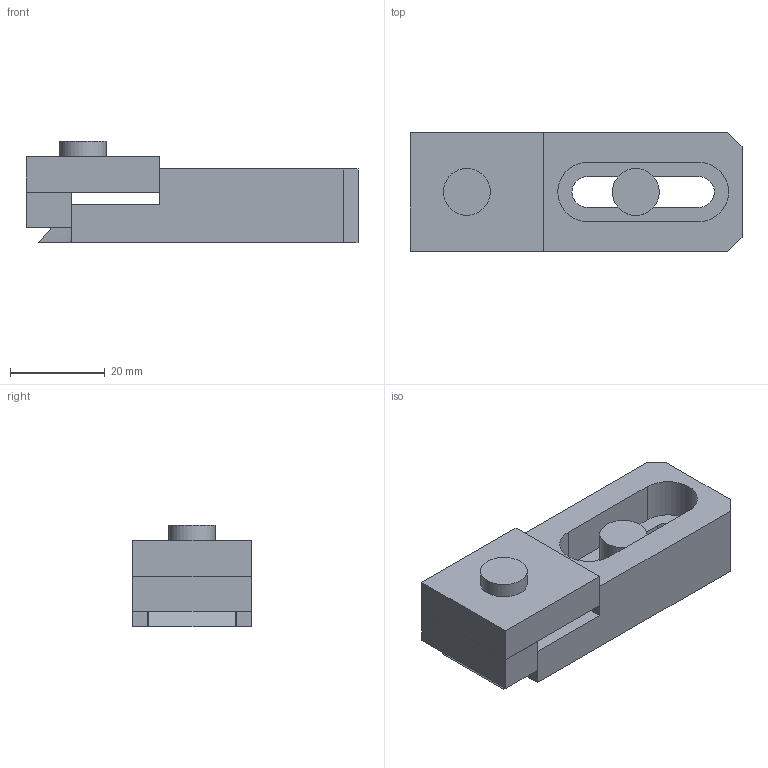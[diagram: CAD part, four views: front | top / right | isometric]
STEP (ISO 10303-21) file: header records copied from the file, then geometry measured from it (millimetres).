
FILE_DESCRIPTION(/* description */ (''),/* implementation_level */ '2;1');
FILE_NAME(/* name */ 'crush_it_clamp v2.step',/* time_stamp */ '2025-09-28T15:56:05-04:00',/* author */ (''),/* organization */ (''),/* preprocessor_version */ 'ST-DEVELOPER v20.1',/* originating_system */ 'Autodesk Translation Framework v14.10.0.0',/* authorisation */ '');
FILE_SCHEMA (('AUTOMOTIVE_DESIGN { 1 0 10303 214 3 1 1 }'));
Length unit declared in the file: millimetre
Products named in the file (1): crush_it_clamp
Bounding box: 70 x 25 x 21.3 mm (x, y, z)
Volume: 22291.9 mm3; surface area: 10016.9 mm2
Topology: 5 solids, 5 shells, 45 faces, 102 edges, 68 vertices
Faces by surface type: plane 37, cylinder 6, bspline 2
Full cylindrical faces by diameter (mm): 9.87 x2
Entity records: 1314 total; most frequent: CARTESIAN_POINT 252, ORIENTED_EDGE 204, DIRECTION 200, EDGE_CURVE 102, LINE 88, VECTOR 88, VERTEX_POINT 68, AXIS2_PLACEMENT_3D 56
